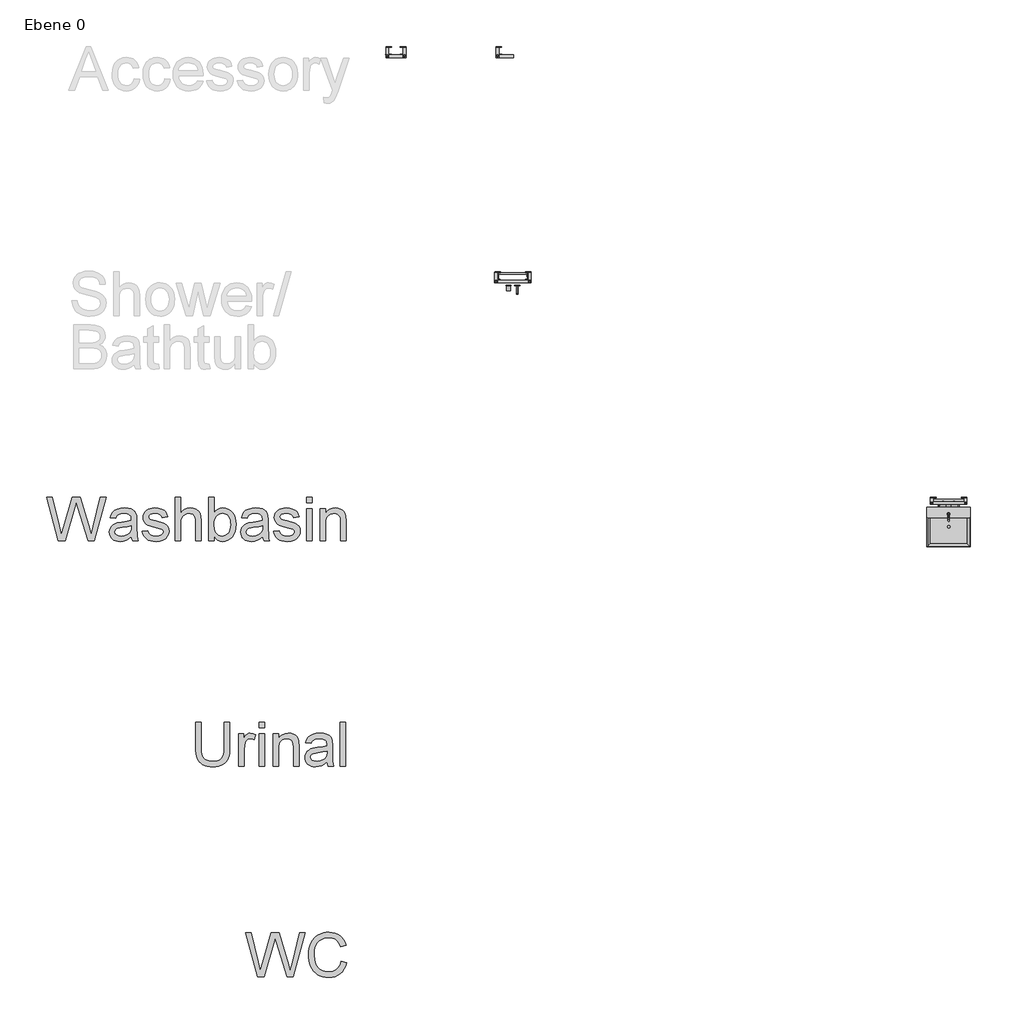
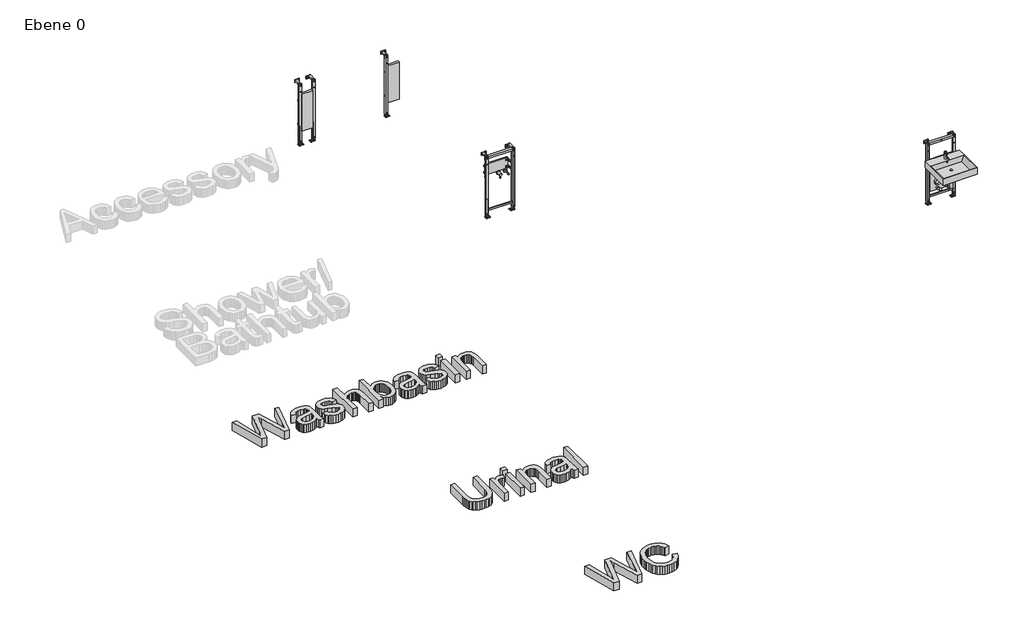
# One storey, part 1 of 2: 4 flow terminals, 3 proxies.
"""IFC4 building model written with IfcOpenShell, lengths in millimetres."""

from ifc_helpers import new_model, si_unit, origin, origin_with_axes, place, context, project, spatial, polyline, outline, extrude, transform, mapped, element, save
from components import flow_terminal_dd3215cd, flow_terminal_cf3be14c, flow_terminal_0e9184b4, flow_terminal_fb088d42, flow_terminal_d5ac6e44, flow_terminal_601b9abe, flow_terminal_2a0403e4

model = new_model("IFC4")

# Units and contexts
model_context = context("Model", 3, world=origin())
ifc_project = project(units=[si_unit("LENGTHUNIT", "METRE", prefix="MILLI")], contexts=[model_context])

# Site, building, storey
site = spatial("IfcSite", under=ifc_project)
building = spatial("IfcBuilding", under=site)
storey = spatial("IfcBuildingStorey", under=building, Name="Ebene 0", Elevation=0.0)

# Proxies
placement = place(None, origin())
element("IfcBuildingElementProxy", 1, Name="600mm Arial", ObjectType="600mm Arial", at=placement, inside=storey, context=model_context, shape_type="SweptSolid", body=[
    extrude(outline(polyline([(-1767.1327442, 2000.0), (-1931.5024196, 2602.7378609), (-1853.8057423, 2602.7378609), (-1758.4507291, 2206.6025285), (-1729.0201695, 2084.3185533), (-1697.5294707, 2192.4758599), (-1578.0413987, 2602.7378609), (-1466.0581193, 2602.7378609), (-1379.2379685, 2305.342056), (-1342.0450988, 2194.9774574), (-1314.6378901, 2084.3185533), (-1286.0902473, 2203.0708613), (-1189.9994702, 2602.7378609), (-1112.15564, 2602.7378609), (-1276.3781626, 2000.0), (-1357.017896, 2000.0), (-1501.6690965, 2465.0028419), (-1521.8290298, 2529.8972259), (-1544.4905607, 2451.7590901), (-1676.192315, 2000.0), (-1767.1327442, 2000.0)])), origin_with_axes(), (0.0, 0.0, 1.0), 150.0),
    extrude(outline(polyline([(-613.0133489, 2214.254474), (-537.6711163, 2194.8303046), (-552.5795342, 2147.975934), (-572.4359649, 2107.0352665), (-597.2404084, 2072.008302), (-626.9928647, 2042.8950406), (-661.0219493, 2020.008182), (-698.6562774, 2003.6604259), (-739.8958491, 1993.8517722), (-784.7406643, 1990.5822209), (-830.6845269, 1993.0562273), (-872.1310322, 2000.4782466), (-909.0801801, 2012.8482787), (-941.5319706, 2030.1663236), (-969.9324606, 2052.174864), (-994.7277071, 2078.6163824), (-1015.91771, 2109.4908788), (-1033.5024694, 2144.7983533), (-1047.3118398, 2183.0120956), (-1057.1756758, 2222.6053953), (-1063.0939774, 2263.5782525), (-1065.0667446, 2305.9306672), (-1062.83646, 2351.3732906), (-1056.1456062, 2393.8176758), (-1044.9941832, 2433.2638228), (-1029.3821911, 2469.7117314), (-1009.6591176, 2502.5589951), (-986.1744507, 2531.2032069), (-958.9281905, 2555.644367), (-927.9203368, 2575.8824752), (-894.2039519, 2591.7519848), (-858.8320981, 2603.0873488), (-821.8047753, 2609.8885672), (-783.1219835, 2612.15564), (-740.0292063, 2609.2217811), (-700.5140815, 2600.4202043), (-664.5766091, 2585.7509098), (-632.2167891, 2565.2138974), (-603.9680504, 2539.3517931), (-580.3638218, 2508.7072229), (-561.4041035, 2473.2801868), (-547.0888954, 2433.0706847), (-622.431128, 2415.1180434), (-634.2953223, 2444.7463395), (-648.5507497, 2470.0612193), (-665.1974099, 2491.0626827), (-684.2353032, 2507.7507297), (-705.774794, 2520.4656512), (-729.926247, 2529.547738), (-756.6896621, 2534.99699), (-786.0650394, 2536.8134074), (-819.8641978, 2534.7992534), (-850.7754824, 2528.7567917), (-878.7988934, 2518.686022), (-903.9344307, 2504.5869446), (-925.8647961, 2487.0941557), (-944.2726915, 2466.8422519), (-959.1581167, 2443.8312331), (-970.5210718, 2418.0610993), (-984.9236519, 2362.9155882), (-989.724512, 2306.07782), (-984.0407352, 2236.4745465), (-976.9360141, 2205.2045769), (-966.9894047, 2176.2890521), (-954.0399584, 2150.3027877), (-937.9267271, 2127.8205992), (-918.6497105, 2108.8424868), (-896.2089088, 2093.3684504), (-871.6941724, 2081.3617018), (-846.1953516, 2072.7854527), (-819.7124464, 2067.6397033), (-792.245457, 2065.9244535), (-759.4901638, 2068.2605042), (-729.3560299, 2075.2686562), (-701.8430552, 2086.9489096), (-676.9512397, 2103.3012642), (-655.2691946, 2124.2521439), (-637.3855311, 2149.727972), (-623.3002492, 2179.7287487), (-613.0133489, 2214.254474)])), origin_with_axes(), (0.0, 0.0, 1.0), 150.0),
])
element("IfcBuildingElementProxy", 2, Name="600mm Arial", ObjectType="600mm Arial", at=placement, inside=storey, context=model_context, shape_type="SweptSolid", body=[
    extrude(outline(polyline([(-2223.453571, 5502.7378609), (-2148.1113384, 5502.7378609), (-2148.1113384, 5155.0157991), (-2153.2248981, 5073.5851194), (-2159.6168478, 5039.8917272), (-2168.5655773, 5010.8796333), (-2180.8436389, 4985.4497904), (-2197.2235847, 4962.503151), (-2217.7054148, 4942.039715), (-2242.2891292, 4924.0594825), (-2271.0023189, 4909.4131806), (-2303.8725751, 4898.9515363), (-2340.899898, 4892.6745498), (-2382.0842873, 4890.5822209), (-2422.2524027, 4892.4032368), (-2458.5853482, 4897.8662844), (-2491.083124, 4906.9713638), (-2519.7457299, 4919.7184749), (-2544.5777646, 4935.9190783), (-2565.5838265, 4955.3846344), (-2582.7639157, 4978.1151432), (-2596.1180321, 5004.1106046), (-2606.1290209, 5034.2631327), (-2613.2797272, 5069.4648411), (-2617.570151, 5109.7157299), (-2619.0002922, 5155.0157991), (-2619.0002922, 5502.7378609), (-2543.6580596, 5502.7378609), (-2543.6580596, 5157.6645494), (-2539.9424515, 5089.9558682), (-2528.795627, 5042.8117905), (-2520.0308385, 5025.4339648), (-2508.5989055, 5010.1622635), (-2494.499828, 4996.9966866), (-2477.7336061, 4985.9372341), (-2437.4873158, 4970.9276487), (-2389.1476216, 4965.9244535), (-2347.6229414, 4968.39846), (-2312.517802, 4975.8204792), (-2283.8322035, 4988.1905113), (-2261.5661457, 5005.5085562), (-2244.8918943, 5029.8623443), (-2232.9817147, 5063.3396059), (-2225.8356069, 5105.9403409), (-2223.453571, 5157.6645494), (-2223.453571, 5502.7378609)])), origin_with_axes(), (0.0, 0.0, 1.0), 150.0),
    extrude(outline(polyline([(-2025.6802104, 4900.0), (-2025.6802104, 5342.6356166), (-1959.7557569, 5342.6356166), (-1959.7557569, 5277.1526215), (-1935.4019688, 5315.1180434), (-1912.9611671, 5337.4852687), (-1890.446789, 5348.4113639), (-1865.8722717, 5352.0533957), (-1828.3483082, 5346.2408601), (-1790.2357335, 5328.8032536), (-1815.398862, 5261.2601193), (-1841.8863656, 5272.8484021), (-1868.3738693, 5276.7111631), (-1890.8698533, 5272.9955549), (-1910.9746043, 5261.8487305), (-1927.2165944, 5244.1168183), (-1938.1242955, 5220.645947), (-1947.2845572, 5178.5602467), (-1950.3379778, 5132.6485737), (-1950.3379778, 4900.0), (-2025.6802104, 4900.0)])), origin_with_axes(), (0.0, 0.0, 1.0), 150.0),
    extrude(outline(polyline([(-1743.1468381, 5427.3956283), (-1743.1468381, 5502.7378609), (-1667.8046055, 5502.7378609), (-1667.8046055, 5427.3956283), (-1743.1468381, 5427.3956283)])), origin_with_axes(), (0.0, 0.0, 1.0), 150.0),
    extrude(outline(polyline([(-1743.1468381, 4900.0), (-1743.1468381, 5342.6356166), (-1667.8046055, 5342.6356166), (-1667.8046055, 4900.0), (-1743.1468381, 4900.0)])), origin_with_axes(), (0.0, 0.0, 1.0), 150.0),
    extrude(outline(polyline([(-1554.7912566, 4900.0), (-1554.7912566, 5342.6356166), (-1479.449024, 5342.6356166), (-1479.449024, 5280.8314414), (-1453.27422, 5311.9910464), (-1421.8387035, 5334.2479071), (-1385.1424745, 5347.6020235), (-1343.1855329, 5352.0533957), (-1306.0478455, 5348.4665462), (-1272.0371551, 5337.7059979), (-1243.6734532, 5321.1145199), (-1223.4767317, 5300.0348816), (-1209.7731274, 5274.5222652), (-1200.8887772, 5244.6318531), (-1196.9156517, 5171.791218), (-1196.9156517, 4900.0), (-1272.2578843, 4900.0), (-1272.2578843, 5161.637675), (-1274.428388, 5200.5963783), (-1280.9398994, 5228.2978925), (-1292.9512465, 5248.1451261), (-1311.6212578, 5263.5409876), (-1335.5519815, 5273.4186192), (-1363.3454663, 5276.7111631), (-1386.2231279, 5274.862556), (-1407.4729116, 5269.316735), (-1427.0948175, 5260.0736998), (-1445.0888456, 5247.1334506), (-1460.1214236, 5229.0244594), (-1470.8589794, 5204.2751982), (-1477.3015128, 5172.885667), (-1479.449024, 5134.8558657), (-1479.449024, 4900.0), (-1554.7912566, 4900.0)])), origin_with_axes(), (0.0, 0.0, 1.0), 150.0),
    extrude(outline(polyline([(-810.7867095, 4956.5066745), (-846.7839628, 4925.6413751), (-883.8480738, 4905.4446535), (-922.8251712, 4894.2978291), (-964.5613835, 4890.5822209), (-998.1076229, 4892.817104), (-1027.524387, 4899.5217534), (-1052.8116756, 4910.696169), (-1073.9694889, 4926.3403509), (-1090.67593, 4945.4610176), (-1102.6091022, 4967.0648877), (-1109.7690055, 4991.1519614), (-1112.15564, 5017.7222385), (-1108.5503964, 5048.9554198), (-1097.7346658, 5077.3191217), (-1081.0512173, 5101.5993334), (-1059.8428203, 5120.5820443), (-1034.9188151, 5134.9294421), (-1007.0885422, 5145.3037144), (-941.8998526, 5156.6344798), (-864.8653628, 5168.5538565), (-811.2281679, 5182.5333723), (-810.7867095, 5199.3087913), (-815.9738457, 5232.9332056), (-822.4577658, 5245.3860112), (-831.5352541, 5254.9325489), (-847.2254211, 5264.4606926), (-866.3368908, 5271.2665095), (-914.8237378, 5276.7111631), (-959.7053412, 5273.0875254), (-991.0488872, 5262.2166125), (-1012.4228311, 5242.1118614), (-1027.3956283, 5210.7867095), (-1102.7378609, 5220.2044886), (-1089.659656, 5261.4072721), (-1070.1435161, 5293.7808876), (-1042.3684255, 5318.5393459), (-1004.5133682, 5336.8966575), (-958.2154191, 5348.2642111), (-905.1116531, 5352.0533957), (-854.1783909, 5348.7056695), (-813.8033419, 5338.662491), (-783.3611068, 5323.5609351), (-762.2262862, 5305.0380767), (-748.2099821, 5282.1374225), (-739.1232969, 5253.9024794), (-735.4444769, 5187.9780258), (-735.4444769, 5094.2416935), (-731.6185042, 4963.3492796), (-725.9531214, 4930.9940581), (-716.6089188, 4900.0), (-791.9511514, 4900.0), (-804.0176808, 4926.1931981), (-810.7867095, 4956.5066745)]), holes=[polyline([(-810.7867095, 5107.1911397), (-861.4072721, 5094.6463636), (-932.3349207, 5084.0881504), (-997.1557283, 5071.8744681), (-1014.0231178, 5063.5235469), (-1026.5127115, 5052.0088404), (-1034.2382334, 5038.2132656), (-1036.8134074, 5023.0197392), (-1031.2032069, 5000.6157257), (-1014.3726057, 4982.2584141), (-986.6894855, 4970.0079437), (-948.5217285, 4965.9244535), (-908.0547091, 4970.431008), (-872.2965791, 4983.9506713), (-843.3074779, 5003.8714813), (-823.1475446, 5027.5814759), (-814.2080121, 5052.0088404), (-811.2281679, 5085.853984), (-810.7867095, 5107.1911397)])]), origin_with_axes(), (0.0, 0.0, 1.0), 150.0),
    extrude(outline(polyline([(-631.8489071, 4900.0), (-631.8489071, 5502.7378609), (-556.5066745, 5502.7378609), (-556.5066745, 4900.0), (-631.8489071, 4900.0)])), origin_with_axes(), (0.0, 0.0, 1.0), 150.0),
])
element("IfcBuildingElementProxy", 3, Name="600mm Arial", ObjectType="600mm Arial", at=placement, inside=storey, context=model_context, shape_type="SweptSolid", body=[
    extrude(outline(polyline([(-4507.7064555, 8000.0), (-4672.0761309, 8602.7378609), (-4594.3794535, 8602.7378609), (-4499.0244404, 8206.6025285), (-4469.5938808, 8084.3185533), (-4438.103182, 8192.4758599), (-4318.6151099, 8602.7378609), (-4206.6318306, 8602.7378609), (-4119.8116797, 8305.342056), (-4082.61881, 8194.9774574), (-4055.2116014, 8084.3185533), (-4026.6639586, 8203.0708613), (-3930.5731814, 8602.7378609), (-3852.7293512, 8602.7378609), (-4016.9518739, 8000.0), (-4097.5916072, 8000.0), (-4242.2428077, 8465.0028419), (-4262.4027411, 8529.8972259), (-4285.064272, 8451.7590901), (-4416.7660262, 8000.0), (-4507.7064555, 8000.0)])), origin_with_axes(), (0.0, 0.0, 1.0), 150.0),
    extrude(outline(polyline([(-3504.2715254, 8056.5066745), (-3540.2687786, 8025.6413751), (-3577.3328897, 8005.4446535), (-3616.309987, 7994.2978291), (-3658.0461994, 7990.5822209), (-3691.5924388, 7992.817104), (-3721.0092029, 7999.5217534), (-3746.2964915, 8010.696169), (-3767.4543048, 8026.3403509), (-3784.1607459, 8045.4610176), (-3796.0939181, 8067.0648877), (-3803.2538214, 8091.1519614), (-3805.6404559, 8117.7222385), (-3802.0352123, 8148.9554198), (-3791.2194816, 8177.3191217), (-3774.5360332, 8201.5993334), (-3753.3276361, 8220.5820443), (-3728.403631, 8234.9294421), (-3700.573358, 8245.3037144), (-3635.3846685, 8256.6344798), (-3558.3501787, 8268.5538565), (-3504.7129838, 8282.5333723), (-3504.2715254, 8299.3087913), (-3509.4586615, 8332.9332056), (-3515.9425817, 8345.3860112), (-3525.0200699, 8354.9325489), (-3540.710237, 8364.4606926), (-3559.8217067, 8371.2665095), (-3608.3085536, 8376.7111631), (-3653.1901571, 8373.0875254), (-3684.533703, 8362.2166125), (-3705.907647, 8342.1118614), (-3720.8804442, 8310.7867095), (-3796.2226768, 8320.2044886), (-3783.1444719, 8361.4072721), (-3763.628332, 8393.7808876), (-3735.8532414, 8418.5393459), (-3697.9981841, 8436.8966575), (-3651.700235, 8448.2642111), (-3598.596469, 8452.0533957), (-3547.6632067, 8448.7056695), (-3507.2881578, 8438.662491), (-3476.8459227, 8423.5609351), (-3455.711102, 8405.0380767), (-3441.694798, 8382.1374225), (-3432.6081128, 8353.9024794), (-3428.9292928, 8287.9780258), (-3428.9292928, 8194.2416935), (-3425.10332, 8063.3492796), (-3419.4379373, 8030.9940581), (-3410.0937346, 8000.0), (-3485.4359673, 8000.0), (-3497.5024967, 8026.1931981), (-3504.2715254, 8056.5066745)]), holes=[polyline([(-3504.2715254, 8207.1911397), (-3554.8920879, 8194.6463636), (-3625.8197366, 8184.0881504), (-3690.6405442, 8171.8744681), (-3707.5079336, 8163.5235469), (-3719.9975274, 8152.0088404), (-3727.7230493, 8138.2132656), (-3730.2982232, 8123.0197392), (-3724.6880228, 8100.6157257), (-3707.8574215, 8082.2584141), (-3680.1743014, 8070.0079437), (-3642.0065444, 8065.9244535), (-3601.5395249, 8070.431008), (-3565.781395, 8083.9506713), (-3536.7922938, 8103.8714813), (-3516.6323604, 8127.5814759), (-3507.692828, 8152.0088404), (-3504.7129838, 8185.853984), (-3504.2715254, 8207.1911397)])]), origin_with_axes(), (0.0, 0.0, 1.0), 150.0),
    extrude(outline(polyline([(-3353.5870602, 8131.8489071), (-3278.2448276, 8141.2666861), (-3273.6922879, 8124.086597), (-3266.3622391, 8109.0402234), (-3256.2546813, 8096.1275653), (-3243.3696144, 8085.3486229), (-3227.6702503, 8076.8505488), (-3209.1198007, 8070.7804959), (-3163.4656451, 8065.9244535), (-3118.3633125, 8070.3758257), (-3100.8337354, 8075.9400409), (-3086.6518845, 8083.7299421), (-3067.8899027, 8103.080535), (-3063.1994073, 8113.9146598), (-3061.6359088, 8125.5213368), (-3063.2086043, 8135.6932739), (-3067.9266909, 8144.7247769), (-3086.7990373, 8159.3664803), (-3115.0155863, 8168.9314122), (-3164.3485619, 8180.8507888), (-3233.1057068, 8200.7348107), (-3277.8033692, 8217.7125647), (-3306.5165589, 8236.2354232), (-3327.3202857, 8260.7547582), (-3339.9570323, 8289.7070712), (-3344.1692811, 8321.5288638), (-3340.7847668, 8350.7203001), (-3330.6312237, 8377.6676562), (-3314.6283569, 8401.3040744), (-3293.6958714, 8420.5626969), (-3272.8921445, 8432.6844086), (-3245.7976356, 8442.8563458), (-3214.4724837, 8449.7541332), (-3180.9768281, 8452.0533957), (-3131.9381581, 8448.3561816), (-3089.3006349, 8437.2645395), (-3055.0140329, 8419.8637211), (-3031.0281268, 8397.2389784), (-3015.1356246, 8367.7164483), (-3005.1292344, 8329.6222677), (-3080.471467, 8320.2044886), (-3089.9812165, 8343.9144832), (-3108.7983806, 8361.7751541), (-3137.1069001, 8372.9771608), (-3175.0907161, 8376.7111631), (-3218.3536388, 8373.1427077), (-3247.1955872, 8362.4373416), (-3263.4191832, 8346.9862979), (-3268.8270485, 8329.1808093), (-3266.5829683, 8317.5925264), (-3259.8507278, 8307.2550424), (-3248.3360214, 8298.0212043), (-3231.7445434, 8290.6267762), (-3166.8501594, 8274.5871212), (-3056.2648317, 8239.1232969), (-3027.0550013, 8222.1639369), (-3004.9085052, 8198.950583), (-2990.9473834, 8169.4096588), (-2986.2936762, 8133.4675879), (-2991.7567238, 8096.3115063), (-3008.1458667, 8061.3627168), (-3034.8357055, 8031.3619401), (-3071.2008407, 8009.0498971), (-3115.1259509, 7995.19914), (-3164.4957147, 7990.5822209), (-3205.0455076, 7992.807907), (-3240.4633467, 7999.4849652), (-3270.7492319, 8010.6133956), (-3295.9031633, 8026.1931981), (-3316.4493728, 8046.1507963), (-3332.9120921, 8070.4126139), (-3345.2913212, 8098.9786508), (-3353.5870602, 8131.8489071)])), origin_with_axes(), (0.0, 0.0, 1.0), 150.0),
    extrude(outline(polyline([(-2901.5336645, 8000.0), (-2901.5336645, 8602.7378609), (-2826.1914319, 8602.7378609), (-2826.1914319, 8381.125747), (-2798.5175088, 8412.1565933), (-2767.4406773, 8434.3214835), (-2732.9609373, 8447.6204176), (-2695.0782888, 8452.0533957), (-2649.571286, 8447.2157474), (-2610.4654299, 8432.7028027), (-2579.6737069, 8409.6549957), (-2559.1091034, 8379.2127606), (-2547.5208206, 8337.3845778), (-2543.6580596, 8280.1789275), (-2543.6580596, 8000.0), (-2619.0002922, 8000.0), (-2619.0002922, 8272.3798292), (-2620.4994113, 8297.8188692), (-2624.9967687, 8319.542301), (-2632.4923644, 8337.5501247), (-2642.9861983, 8351.8423402), (-2656.2299501, 8362.7224502), (-2671.9752995, 8370.4939573), (-2690.2222465, 8375.1568616), (-2710.970791, 8376.7111631), (-2742.8109777, 8372.5173083), (-2772.7013898, 8359.9357441), (-2797.4598481, 8340.1804809), (-2813.9041733, 8314.4655295), (-2823.1196172, 8280.2892921), (-2826.1914319, 8235.1501713), (-2826.1914319, 8000.0), (-2901.5336645, 8000.0)])), origin_with_axes(), (0.0, 0.0, 1.0), 150.0),
    extrude(outline(polyline([(-2364.7202572, 8000.0), (-2440.0624898, 8000.0), (-2440.0624898, 8602.7378609), (-2364.7202572, 8602.7378609), (-2364.7202572, 8379.2127606), (-2339.9434048, 8411.0805385), (-2311.965979, 8433.8432369), (-2280.78798, 8447.500856), (-2246.4094075, 8452.0533957), (-2207.597857, 8447.9515114), (-2170.9200221, 8435.6458587), (-2138.4728301, 8415.9089896), (-2112.3532085, 8389.5134565), (-2091.8805754, 8356.7167766), (-2076.3743493, 8317.7764674), (-2066.6070824, 8274.3112097), (-2063.3513267, 8227.9396842), (-2066.7220455, 8174.431248), (-2076.8342018, 8127.3607467), (-2093.6877957, 8086.7281804), (-2117.2828272, 8052.5335489), (-2145.6051423, 8025.4298429), (-2176.6405871, 8006.0700529), (-2210.3891617, 7994.4541789), (-2246.8508659, 7990.5822209), (-2282.3606755, 7995.576219), (-2313.8421772, 8010.5582133), (-2341.2953711, 8035.5282037), (-2364.7202572, 8070.4861903), (-2364.7202572, 8000.0)]), holes=[polyline([(-2364.7202572, 8224.4080171), (-2359.5699092, 8161.5737723), (-2353.1319743, 8137.7718072), (-2344.1188654, 8119.0466136), (-2325.8627214, 8095.8056686), (-2304.6451273, 8079.2049936), (-2280.4660832, 8069.2445885), (-2253.325589, 8065.9244535), (-2230.7928168, 8068.3708688), (-2209.8419372, 8075.7101146), (-2190.4729501, 8087.9421909), (-2172.6858557, 8105.0670978), (-2157.814226, 8127.03885), (-2147.1916334, 8153.8114622), (-2140.8180778, 8185.3849344), (-2138.6935593, 8221.7592667), (-2140.7307059, 8258.8233777), (-2146.8421455, 8290.7003526), (-2157.0278783, 8317.3901913), (-2171.2879041, 8338.892894), (-2188.4358036, 8355.4383867), (-2207.2851573, 8367.2565958), (-2227.8359653, 8374.3475212), (-2250.0882275, 8376.7111631), (-2272.6209997, 8374.2647478), (-2293.5718793, 8366.925502), (-2312.9408663, 8354.6934256), (-2330.7279608, 8337.5685188), (-2345.5995905, 8315.8174958), (-2356.2221831, 8289.7070712), (-2362.5957386, 8259.237245), (-2364.7202572, 8224.4080171)])]), origin_with_axes(), (0.0, 0.0, 1.0), 150.0),
    extrude(outline(polyline([(-1696.0579427, 8056.5066745), (-1732.0551959, 8025.6413751), (-1769.119307, 8005.4446535), (-1808.0964043, 7994.2978291), (-1849.8326167, 7990.5822209), (-1883.3788561, 7992.817104), (-1912.7956202, 7999.5217534), (-1938.0829088, 8010.696169), (-1959.2407221, 8026.3403509), (-1975.9471632, 8045.4610176), (-1987.8803354, 8067.0648877), (-1995.0402387, 8091.1519614), (-1997.4268732, 8117.7222385), (-1993.8216296, 8148.9554198), (-1983.005899, 8177.3191217), (-1966.3224505, 8201.5993334), (-1945.1140535, 8220.5820443), (-1920.1900483, 8234.9294421), (-1892.3597753, 8245.3037144), (-1827.1710858, 8256.6344798), (-1750.136596, 8268.5538565), (-1696.4994011, 8282.5333723), (-1696.0579427, 8299.3087913), (-1701.2450789, 8332.9332056), (-1707.728999, 8345.3860112), (-1716.8064872, 8354.9325489), (-1732.4966543, 8364.4606926), (-1751.608124, 8371.2665095), (-1800.094971, 8376.7111631), (-1844.9765744, 8373.0875254), (-1876.3201204, 8362.2166125), (-1897.6940643, 8342.1118614), (-1912.6668615, 8310.7867095), (-1988.0090941, 8320.2044886), (-1974.9308892, 8361.4072721), (-1955.4147493, 8393.7808876), (-1927.6396587, 8418.5393459), (-1889.7846014, 8436.8966575), (-1843.4866523, 8448.2642111), (-1790.3828863, 8452.0533957), (-1739.449624, 8448.7056695), (-1699.0745751, 8438.662491), (-1668.63234, 8423.5609351), (-1647.4975194, 8405.0380767), (-1633.4812153, 8382.1374225), (-1624.3945301, 8353.9024794), (-1620.7157101, 8287.9780258), (-1620.7157101, 8194.2416935), (-1616.8897374, 8063.3492796), (-1611.2243546, 8030.9940581), (-1601.880152, 8000.0), (-1677.2223846, 8000.0), (-1689.288914, 8026.1931981), (-1696.0579427, 8056.5066745)]), holes=[polyline([(-1696.0579427, 8207.1911397), (-1746.6785053, 8194.6463636), (-1817.6061539, 8184.0881504), (-1882.4269615, 8171.8744681), (-1899.294351, 8163.5235469), (-1911.7839447, 8152.0088404), (-1919.5094666, 8138.2132656), (-1922.0846406, 8123.0197392), (-1916.4744401, 8100.6157257), (-1899.6438388, 8082.2584141), (-1871.9607187, 8070.0079437), (-1833.7929617, 8065.9244535), (-1793.3259422, 8070.431008), (-1757.5678123, 8083.9506713), (-1728.5787111, 8103.8714813), (-1708.4187778, 8127.5814759), (-1699.4792453, 8152.0088404), (-1696.4994011, 8185.853984), (-1696.0579427, 8207.1911397)])]), origin_with_axes(), (0.0, 0.0, 1.0), 150.0),
    extrude(outline(polyline([(-1545.3734775, 8131.8489071), (-1470.0312449, 8141.2666861), (-1465.4787052, 8124.086597), (-1458.1486564, 8109.0402234), (-1448.0410986, 8096.1275653), (-1435.1560317, 8085.3486229), (-1419.4566676, 8076.8505488), (-1400.906218, 8070.7804959), (-1355.2520624, 8065.9244535), (-1310.1497298, 8070.3758257), (-1292.6201527, 8075.9400409), (-1278.4383018, 8083.7299421), (-1259.67632, 8103.080535), (-1254.9858246, 8113.9146598), (-1253.4223261, 8125.5213368), (-1254.9950217, 8135.6932739), (-1259.7131082, 8144.7247769), (-1278.5854546, 8159.3664803), (-1306.8020036, 8168.9314122), (-1356.1349792, 8180.8507888), (-1424.8921241, 8200.7348107), (-1469.5897865, 8217.7125647), (-1498.3029762, 8236.2354232), (-1519.106703, 8260.7547582), (-1531.7434496, 8289.7070712), (-1535.9556984, 8321.5288638), (-1532.5711841, 8350.7203001), (-1522.417641, 8377.6676562), (-1506.4147742, 8401.3040744), (-1485.4822887, 8420.5626969), (-1464.6785619, 8432.6844086), (-1437.5840529, 8442.8563458), (-1406.258901, 8449.7541332), (-1372.7632454, 8452.0533957), (-1323.7245754, 8448.3561816), (-1281.0870522, 8437.2645395), (-1246.8004502, 8419.8637211), (-1222.8145441, 8397.2389784), (-1206.9220419, 8367.7164483), (-1196.9156517, 8329.6222677), (-1272.2578843, 8320.2044886), (-1281.7676339, 8343.9144832), (-1300.5847979, 8361.7751541), (-1328.8933174, 8372.9771608), (-1366.8771334, 8376.7111631), (-1410.1400561, 8373.1427077), (-1438.9820045, 8362.4373416), (-1455.2056005, 8346.9862979), (-1460.6134658, 8329.1808093), (-1458.3693856, 8317.5925264), (-1451.6371451, 8307.2550424), (-1440.1224387, 8298.0212043), (-1423.5309607, 8290.6267762), (-1358.6365767, 8274.5871212), (-1248.051249, 8239.1232969), (-1218.8414186, 8222.1639369), (-1196.6949225, 8198.950583), (-1182.7338007, 8169.4096588), (-1178.0800935, 8133.4675879), (-1183.5431411, 8096.3115063), (-1199.932284, 8061.3627168), (-1226.6221228, 8031.3619401), (-1262.987258, 8009.0498971), (-1306.9123682, 7995.19914), (-1356.282132, 7990.5822209), (-1396.8319249, 7992.807907), (-1432.249764, 7999.4849652), (-1462.5356492, 8010.6133956), (-1487.6895807, 8026.1931981), (-1508.2357901, 8046.1507963), (-1524.6985094, 8070.4126139), (-1537.0777385, 8098.9786508), (-1545.3734775, 8131.8489071)])), origin_with_axes(), (0.0, 0.0, 1.0), 150.0),
    extrude(outline(polyline([(-1093.3200818, 8527.3956283), (-1093.3200818, 8602.7378609), (-1017.9778492, 8602.7378609), (-1017.9778492, 8527.3956283), (-1093.3200818, 8527.3956283)])), origin_with_axes(), (0.0, 0.0, 1.0), 150.0),
    extrude(outline(polyline([(-1093.3200818, 8000.0), (-1093.3200818, 8442.6356166), (-1017.9778492, 8442.6356166), (-1017.9778492, 8000.0), (-1093.3200818, 8000.0)])), origin_with_axes(), (0.0, 0.0, 1.0), 150.0),
    extrude(outline(polyline([(-904.9645003, 8000.0), (-904.9645003, 8442.6356166), (-829.6222677, 8442.6356166), (-829.6222677, 8380.8314414), (-803.4474637, 8411.9910464), (-772.0119472, 8434.2479071), (-735.3157182, 8447.6020235), (-693.3587767, 8452.0533957), (-656.2210893, 8448.4665462), (-622.2103988, 8437.7059979), (-593.846697, 8421.1145199), (-573.6499754, 8400.0348816), (-559.9463711, 8374.5222652), (-551.0620209, 8344.6318531), (-547.0888954, 8271.791218), (-547.0888954, 8000.0), (-622.431128, 8000.0), (-622.431128, 8261.637675), (-624.6016318, 8300.5963783), (-631.1131431, 8328.2978925), (-643.1244902, 8348.1451261), (-661.7945015, 8363.5409876), (-685.7252253, 8373.4186192), (-713.51871, 8376.7111631), (-736.3963716, 8374.862556), (-757.6461553, 8369.316735), (-777.2680612, 8360.0736998), (-795.2620893, 8347.1334506), (-810.2946674, 8329.0244594), (-821.0322231, 8304.2751982), (-827.4747565, 8272.885667), (-829.6222677, 8234.8558657), (-829.6222677, 8000.0), (-904.9645003, 8000.0)])), origin_with_axes(), (0.0, 0.0, 1.0), 150.0),
])

# Flow terminals
flow_terminal_shape = flow_terminal_dd3215cd(model_context)
element("IfcFlowTerminal", 4, ObjectType="nextVIT Stütz-Stützklappgriff-Element : nextVIT Stütz-Stützklappgriff-Element", at=placement, inside=storey, context=model_context, shape_type="MappedRepresentation", body=[
    mapped(flow_terminal_shape, transform((138.0, 14800.0, 0.0), x_axis=(1.0, 0.0, 0.0), y_axis=(0.0, 1.0, 0.0), z_axis=(0.0, 0.0, 1.0))),
])
flow_terminal_2_shape = flow_terminal_cf3be14c(model_context)
flow_terminal_3_shape = flow_terminal_0e9184b4(model_context)
flow_terminal_4_shape = flow_terminal_fb088d42(model_context)
element("IfcFlowTerminal", 5, ObjectType="nextVIT Waschtisch-Element Wasserzählerstrecke WZ2 Rotguss : nextVIT Waschtisch-Element Wasserzählerstrecke WZ2 Rotguss", at=placement, inside=storey, context=model_context, shape_type="MappedRepresentation", body=[
    mapped(flow_terminal_2_shape, transform((7750.0, 8600.0, 0.0), x_axis=(1.0, 0.0, 0.0), y_axis=(0.0, 1.0, 0.0), z_axis=(0.0, 0.0, 1.0))),
    mapped(flow_terminal_3_shape, transform((7750.0, 8600.0, 0.0), x_axis=(1.0, 0.0, 0.0), y_axis=(0.0, 1.0, 0.0), z_axis=(0.0, 0.0, 1.0))),
    mapped(flow_terminal_4_shape, transform((7750.0, 8600.0, 0.0), x_axis=(1.0, 0.0, 0.0), y_axis=(0.0, 1.0, 0.0), z_axis=(0.0, 0.0, 1.0))),
])
flow_terminal_5_shape = flow_terminal_d5ac6e44(model_context)
element("IfcFlowTerminal", 6, ObjectType="nextVIT Stütz-Stützklappgriff-Element : nextVIT Stütz-Stützklappgriff-Element", at=placement, inside=storey, context=model_context, shape_type="MappedRepresentation", body=[
    mapped(flow_terminal_5_shape, transform((1638.0, 14800.0, 0.0), x_axis=(1.0, 0.0, 0.0), y_axis=(0.0, 1.0, 0.0), z_axis=(0.0, 0.0, 1.0))),
])
flow_terminal_6_shape = flow_terminal_601b9abe(model_context)
flow_terminal_7_shape = flow_terminal_2a0403e4(model_context)
element("IfcFlowTerminal", 7, ObjectType="nextVIT Montageelement Dusch und Badewannenarmatur : nextVIT Montageelement Dusch und Badewannenarmatur", at=placement, inside=storey, context=model_context, shape_type="MappedRepresentation", body=[
    mapped(flow_terminal_6_shape, transform((1750.0, 11700.0, 0.0), x_axis=(1.0, 0.0, 0.0), y_axis=(0.0, 1.0, 0.0), z_axis=(0.0, 0.0, 1.0))),
    mapped(flow_terminal_7_shape, transform((1750.0, 11700.0, 0.0), x_axis=(1.0, 0.0, 0.0), y_axis=(0.0, 1.0, 0.0), z_axis=(0.0, 0.0, 1.0))),
])

save(model, "model.ifc")
